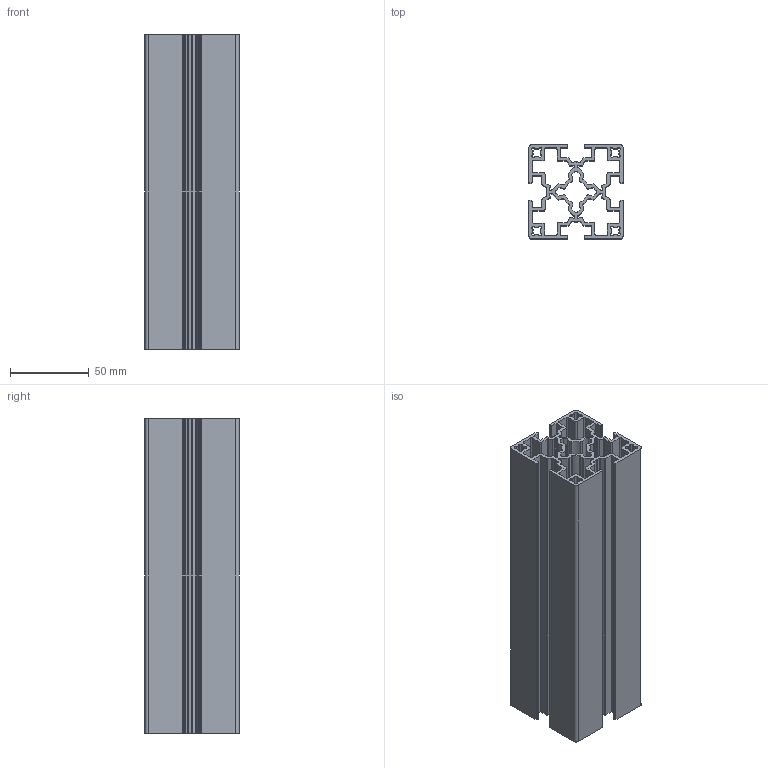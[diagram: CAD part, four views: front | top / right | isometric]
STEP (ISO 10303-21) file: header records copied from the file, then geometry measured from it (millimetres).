
FILE_DESCRIPTION((''),'2;1');
FILE_NAME('X:\Ritarkiv\STEP-Carryline Standarddelar\100-1015.stp','2009-11-09T07:46:48',('marcus'),(''),'Autodesk Inventor 2010','Autodesk Inventor 2010','');
FILE_SCHEMA(('AUTOMOTIVE_DESIGN { 1 0 10303 214 1 1 1 1 }'));
Length unit declared in the file: millimetre
Products named in the file (2): Assembly2; 100-1015
Assembly tree (1 placements, depth 2):
  Assembly2
    100-1015
Bounding box: 60 x 60 x 200 mm (x, y, z)
Volume: 209026.8 mm3; surface area: 195482.5 mm2
Topology: 1 solids, 1 shells, 350 faces, 1044 edges, 696 vertices
Faces by surface type: cylinder 212, plane 138
Entity records: 12020 total; most frequent: DIRECTION 2174, CARTESIAN_POINT 2093, ORIENTED_EDGE 2088, EDGE_CURVE 1044, AXIS2_PLACEMENT_3D 777, VERTEX_POINT 696, VECTOR 620, LINE 620
